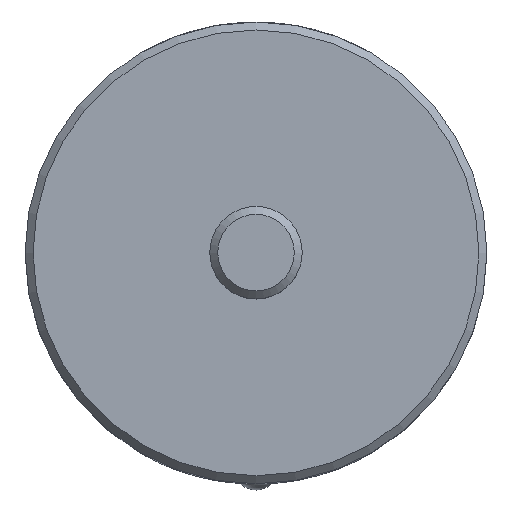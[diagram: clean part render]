
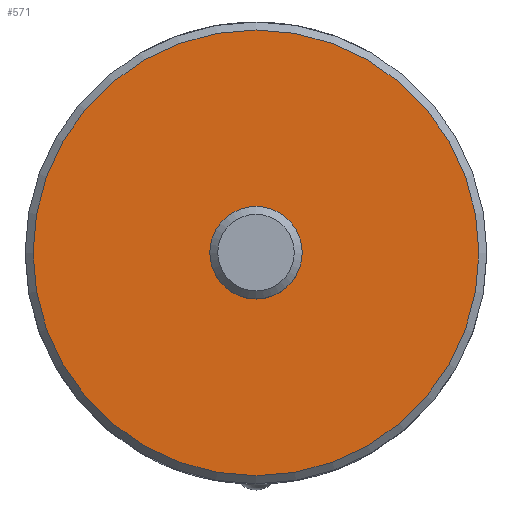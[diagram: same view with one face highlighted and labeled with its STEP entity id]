
A CAD part, top view. The second image highlights one B-rep face of the part: STEP entity #571.
In plain terms, the highlighted planar face has unit normal (0, 0, 1).
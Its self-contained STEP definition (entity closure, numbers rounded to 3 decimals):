
#368=FACE_BOUND('',#685,.T.);
#369=FACE_BOUND('',#686,.T.);
#386=CIRCLE('',#1396,2.375);
#387=CIRCLE('',#1397,2.375);
#388=CIRCLE('',#1399,13.975);
#571=ADVANCED_FACE('',(#368,#369),#597,.T.);
#597=PLANE('',#1400);
#685=EDGE_LOOP('',(#1014));
#686=EDGE_LOOP('',(#1015,#1016));
#1014=ORIENTED_EDGE('',*,*,#1346,.T.);
#1015=ORIENTED_EDGE('',*,*,#1344,.F.);
#1016=ORIENTED_EDGE('',*,*,#1345,.F.);
#1179=VERTEX_POINT('',#2418);
#1180=VERTEX_POINT('',#2419);
#1181=VERTEX_POINT('',#2423);
#1344=EDGE_CURVE('',#1179,#1180,#386,.T.);
#1345=EDGE_CURVE('',#1180,#1179,#387,.T.);
#1346=EDGE_CURVE('',#1181,#1181,#388,.T.);
#1396=AXIS2_PLACEMENT_3D('',#2417,#1500,#1501);
#1397=AXIS2_PLACEMENT_3D('',#2420,#1502,#1503);
#1399=AXIS2_PLACEMENT_3D('',#2422,#1506,#1507);
#1400=AXIS2_PLACEMENT_3D('',#2424,#1508,#1509);
#1500=DIRECTION('',(0.,0.,1.));
#1501=DIRECTION('',(1.,0.,0.));
#1502=DIRECTION('',(0.,0.,1.));
#1503=DIRECTION('',(1.,0.,0.));
#1506=DIRECTION('',(0.,0.,1.));
#1507=DIRECTION('',(1.,0.,0.));
#1508=DIRECTION('',(0.,0.,1.));
#1509=DIRECTION('',(1.,0.,0.));
#2417=CARTESIAN_POINT('',(0.,0.,0.5));
#2418=CARTESIAN_POINT('',(0.,2.375,0.5));
#2419=CARTESIAN_POINT('',(2.375,0.,0.5));
#2420=CARTESIAN_POINT('',(0.,0.,0.5));
#2422=CARTESIAN_POINT('',(0.,0.,0.5));
#2423=CARTESIAN_POINT('',(13.975,0.,0.5));
#2424=CARTESIAN_POINT('',(0.,0.,0.5));
